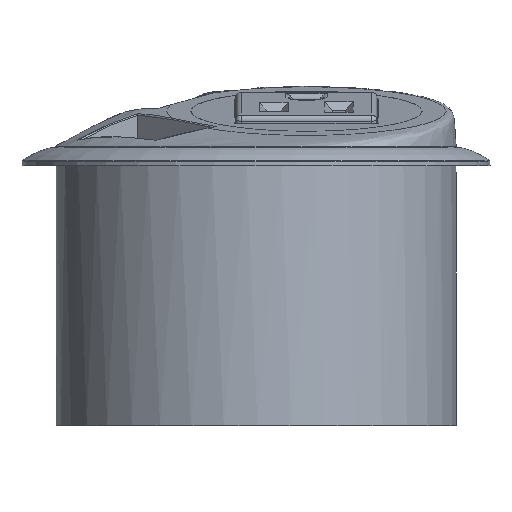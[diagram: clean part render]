
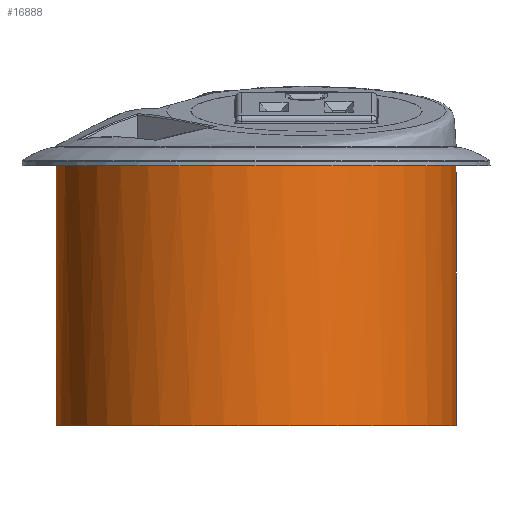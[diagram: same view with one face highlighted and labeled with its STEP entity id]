
A CAD part, front view. The second image highlights one B-rep face of the part: STEP entity #16888.
In plain terms, the highlighted cylindrical face has radius 38.5 mm (diameter 77 mm), a full revolution.
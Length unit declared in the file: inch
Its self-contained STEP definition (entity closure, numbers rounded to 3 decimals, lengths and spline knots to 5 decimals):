
#16809=CARTESIAN_POINT('',(1.14045,-0.99843,-2.11614));
#16810=VERTEX_POINT('',#16809);
#16811=CARTESIAN_POINT('',(0.,0.,-2.11614));
#16812=DIRECTION('',(0.0,0.0,-1.0));
#16813=DIRECTION('',(-1.0,0.0,0.0));
#16814=AXIS2_PLACEMENT_3D('',#16811,#16812,#16813);
#16815=CIRCLE('',#16814,1.51575);
#16816=EDGE_CURVE('',#16810,#16810,#16815,.T.);
#16869=CARTESIAN_POINT('',(0.,0.,-0.26645));
#16870=DIRECTION('',(0.,0.,1.0));
#16871=DIRECTION('',(-1.0,0.0,0.0));
#16872=AXIS2_PLACEMENT_3D('',#16869,#16870,#16871);
#16873=CYLINDRICAL_SURFACE('',#16872,1.51575);
#16874=ORIENTED_EDGE('',*,*,#16816,.F.);
#16875=EDGE_LOOP('',(#16874));
#16876=FACE_OUTER_BOUND('',#16875,.T.);
#16877=CARTESIAN_POINT('',(0.81618,1.27724,-0.14764));
#16878=VERTEX_POINT('',#16877);
#16879=CARTESIAN_POINT('',(0.,0.,-0.14764));
#16880=DIRECTION('',(0.0,0.0,1.0));
#16881=DIRECTION('',(0.0,-1.0,0.0));
#16882=AXIS2_PLACEMENT_3D('',#16879,#16880,#16881);
#16883=CIRCLE('',#16882,1.51575);
#16884=EDGE_CURVE('',#16878,#16878,#16883,.T.);
#16885=ORIENTED_EDGE('',*,*,#16884,.F.);
#16886=EDGE_LOOP('',(#16885));
#16887=FACE_BOUND('',#16886,.T.);
#16888=ADVANCED_FACE('',(#16876,#16887),#16873,.T.);
